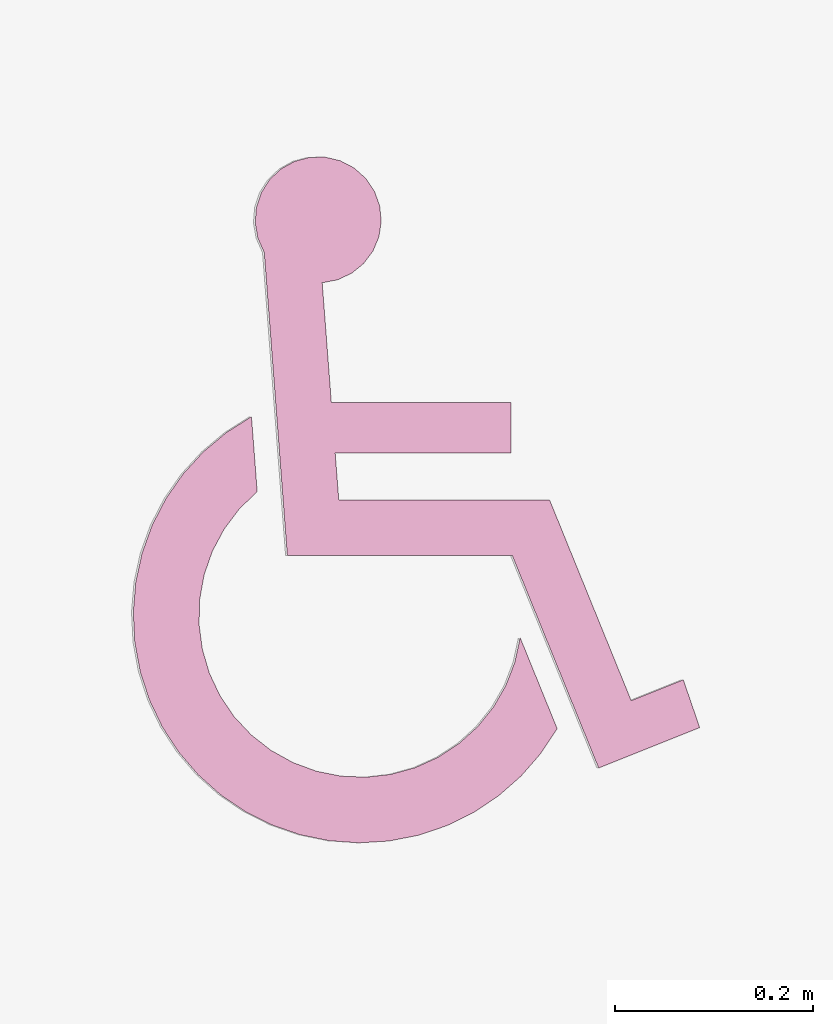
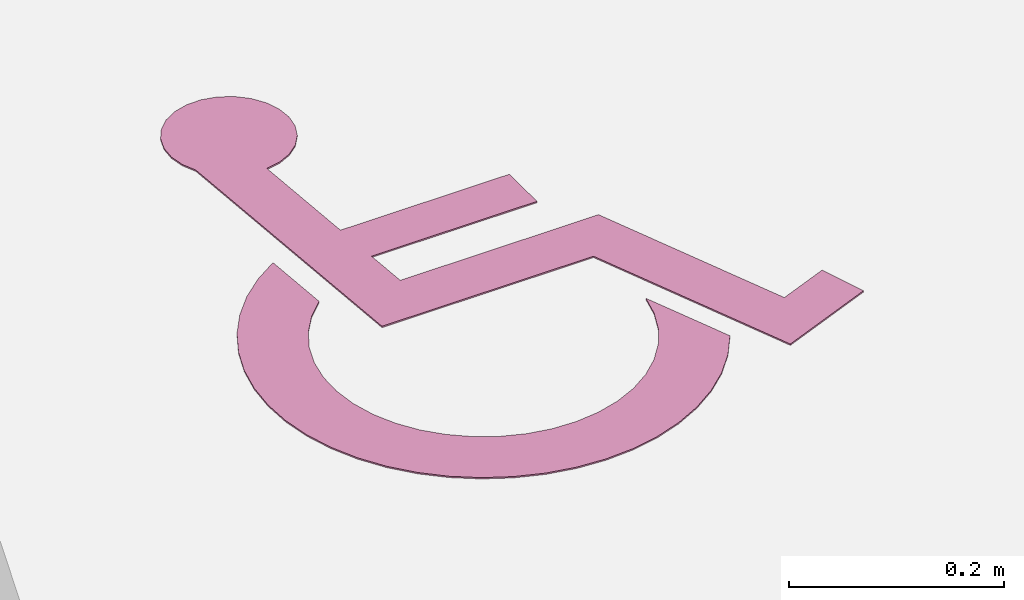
# One storey, part 74 of 76: 1 furnishing.
"""IFC2X3 building model written with IfcOpenShell, lengths in millimetres."""

import ifcopenshell
import ifcopenshell.guid

model = None  # the IFC model being written
_history = None  # IfcOwnerHistory: only IFC2X3 demands one
_inside = {}  # id of a spatial element -> (the spatial element, [elements in it])
_under = {}  # id of a project, library or spatial element -> (it, [spatial elements below it])
_declared = {}  # id of a project -> (the project, [libraries it declares])
_typed = {}  # id of a type object -> (the type object, [elements of that type])
_made_of = {}  # id of a material, layer set ... -> (it, [elements and type objects made of it])


def new_model(schema):
    """Start an empty IFC model of exactly this schema.

    Asked for "IFC4X3", IfcOpenShell would pick the latest addendum, in which some entities
    have other attributes; the version numbers below select the first issue.
    IFC2X3 requires an IfcOwnerHistory on every rooted entity: one is made here for all.
    """
    global model, _history
    if schema == "IFC4X3":
        model = ifcopenshell.file(schema_version=(4, 3, 0, 0))
    else:
        model = ifcopenshell.file(schema=schema)
    _inside.clear()
    _under.clear()
    _declared.clear()
    _typed.clear()
    _made_of.clear()
    _history = None
    if model.schema == "IFC2X3":
        org = make("IfcOrganization", Name="unknown")
        user = make(
            "IfcPersonAndOrganization",
            ThePerson=make("IfcPerson", FamilyName="unknown"),
            TheOrganization=org,
        )
        app = make(
            "IfcApplication",
            ApplicationDeveloper=org,
            Version="unknown",
            ApplicationFullName="unknown",
            ApplicationIdentifier="unknown",
        )
        _history = make(
            "IfcOwnerHistory",
            OwningUser=user,
            OwningApplication=app,
            ChangeAction="ADDED",
            CreationDate=0,
        )
    return model


def make(cls, **values):
    """One entity of the class cls with the attributes given. An attribute that is None is left unset."""
    return model.create_entity(
        cls, **{name: value for name, value in values.items() if value is not None}
    )


def entity(cls, *values):
    """Any entity or typed value of the class cls, its attributes in the order of the schema. None: left unset."""
    e = model.create_entity(cls)
    for i, value in enumerate(values):
        if value is not None:
            e[i] = value
    return e


def rooted(cls, **values):
    """An entity with a GlobalId (a new one), such as an element, a storey or a relation."""
    return make(cls, GlobalId=ifcopenshell.guid.new(), OwnerHistory=_history, **values)


def si_unit(unit_type, name, prefix=None):
    """IfcSIUnit, for example si_unit("LENGTHUNIT", "METRE", prefix="MILLI")."""
    return make("IfcSIUnit", UnitType=unit_type, Prefix=prefix, Name=name)


def converted_unit(unit_type, name, factor, base, dimensions=None, offset=None):
    """IfcConversionBasedUnit, such as the inch: factor (a typed value) times the base unit."""
    return make(
        "IfcConversionBasedUnit"
        if offset is None
        else "IfcConversionBasedUnitWithOffset",
        ConversionOffset=offset,
        Dimensions=None
        if dimensions is None
        else entity("IfcDimensionalExponents", *dimensions),
        UnitType=unit_type,
        Name=name,
        ConversionFactor=make(
            "IfcMeasureWithUnit", ValueComponent=factor, UnitComponent=base
        ),
    )


def derived_unit(unit_type, elements):
    """IfcDerivedUnit: a product of units, each with its exponent."""
    return make(
        "IfcDerivedUnit",
        Elements=[
            make("IfcDerivedUnitElement", Unit=unit, Exponent=power)
            for unit, power in elements
        ],
        UnitType=unit_type,
    )


def assignment(units):
    """IfcUnitAssignment: the units of a project."""
    return None if units is None else make("IfcUnitAssignment", Units=units)


def point(xyz):
    """IfcCartesianPoint."""
    return None if xyz is None else make("IfcCartesianPoint", Coordinates=xyz)


def direction(xyz):
    """IfcDirection."""
    return None if xyz is None else make("IfcDirection", DirectionRatios=xyz)


def frame(location, z_axis=None, x_axis=None):
    """IfcAxis2Placement3D, a coordinate frame: its origin and axes. An axis left out is left unset."""
    return make(
        "IfcAxis2Placement3D",
        Location=point(location),
        Axis=direction(z_axis),
        RefDirection=direction(x_axis),
    )


def frame_2d(location, x_axis=None):
    """IfcAxis2Placement2D, a coordinate frame in the plane: its origin and x axis."""
    return make(
        "IfcAxis2Placement2D", Location=point(location), RefDirection=direction(x_axis)
    )


def origin():
    """The frame at (0, 0, 0) with its axes left unset."""
    return frame((0.0, 0.0, 0.0))


def place(relative_to, where):
    """IfcLocalPlacement: puts the frame where relative to a parent placement (None: the world)."""
    return make(
        "IfcLocalPlacement", PlacementRelTo=relative_to, RelativePlacement=where
    )


def context(
    kind, dimensions, precision=None, world=None, true_north=None, identifier=None
):
    """IfcGeometricRepresentationContext, for example the 3D "Model" context."""
    return make(
        "IfcGeometricRepresentationContext",
        ContextIdentifier=identifier,
        ContextType=kind,
        CoordinateSpaceDimension=dimensions,
        Precision=precision,
        WorldCoordinateSystem=world,
        TrueNorth=true_north,
    )


def subcontext(parent, identifier, kind, view, scale=None):
    """IfcGeometricRepresentationSubContext, for example "Body" below "Model"."""
    return make(
        "IfcGeometricRepresentationSubContext",
        ContextIdentifier=identifier,
        ContextType=kind,
        ParentContext=parent,
        TargetScale=scale,
        TargetView=view,
    )


def project(units=None, contexts=None):
    """IfcProject with its units and contexts."""
    return rooted(
        "IfcProject",
        Name="project",
        RepresentationContexts=contexts,
        UnitsInContext=assignment(units),
    )


def spatial(cls, under=None, at=None, **own):
    """A site, building, storey or space (cls), placed at a placement, below another one or the project."""
    s = rooted(cls, ObjectPlacement=at, **own)
    if under is not None:
        _under.setdefault(under.id(), (under, []))[1].append(s)
    return s


def polyline(points):
    """IfcPolyline through the points."""
    return make("IfcPolyline", Points=[point(p) for p in points])


def circle_curve(where, radius):
    """IfcCircle in the frame where."""
    return make("IfcCircle", Position=where, Radius=radius)


def parameter(value):
    """IfcParameterValue: where a trimmed curve begins or ends, as a parameter of its basis curve."""
    return model.create_entity("IfcParameterValue", value)


def trimmed(basis, trim1, trim2, sense, master):
    """IfcTrimmedCurve: the piece of a basis curve between two trims."""
    return make(
        "IfcTrimmedCurve",
        BasisCurve=basis,
        Trim1=trim1,
        Trim2=trim2,
        SenseAgreement=sense,
        MasterRepresentation=master,
    )


def segment(curve, same_sense, transition):
    """IfcCompositeCurveSegment."""
    return make(
        "IfcCompositeCurveSegment",
        Transition=transition,
        SameSense=same_sense,
        ParentCurve=curve,
    )


def composite_curve(segments, self_intersect=None):
    """IfcCompositeCurve: segments joined end to end."""
    return make("IfcCompositeCurve", Segments=segments, SelfIntersect=self_intersect)


def outline(outer, holes=None, kind="AREA"):
    """IfcArbitraryClosedProfileDef: a profile drawn as a closed curve; with holes, ...WithVoids."""
    if holes is None:
        return make("IfcArbitraryClosedProfileDef", ProfileType=kind, OuterCurve=outer)
    return make(
        "IfcArbitraryProfileDefWithVoids",
        ProfileType=kind,
        OuterCurve=outer,
        InnerCurves=holes,
    )


def extrude(swept, where, along, depth):
    """IfcExtrudedAreaSolid: the profile swept, set in the frame where, extruded along a direction by depth."""
    return make(
        "IfcExtrudedAreaSolid",
        SweptArea=swept,
        Position=where,
        ExtrudedDirection=direction(along),
        Depth=depth,
    )


def shape(context_of_items, identifier, shape_type, items):
    """IfcShapeRepresentation: the items that make up one representation, for example the "Body"."""
    return make(
        "IfcShapeRepresentation",
        ContextOfItems=context_of_items,
        RepresentationIdentifier=identifier,
        RepresentationType=shape_type,
        Items=items,
    )


def source(mapping_origin, context_of_items, identifier, shape_type, items):
    """IfcRepresentationMap: a shape defined once, which mapped items show again and again."""
    return make(
        "IfcRepresentationMap",
        MappingOrigin=mapping_origin,
        MappedRepresentation=shape(context_of_items, identifier, shape_type, items),
    )


def transform(
    local_origin,
    x_axis=None,
    y_axis=None,
    z_axis=None,
    scale=None,
    scale2=None,
    scale3=None,
    uniform=True,
):
    """IfcCartesianTransformationOperator3D, or its non-uniform kind. x_axis, y_axis, z_axis: its Axis1, 2, 3."""
    if uniform:
        return make(
            "IfcCartesianTransformationOperator3D",
            Axis1=direction(x_axis),
            Axis2=direction(y_axis),
            LocalOrigin=point(local_origin),
            Scale=scale,
            Axis3=direction(z_axis),
        )
    return make(
        "IfcCartesianTransformationOperator3DnonUniform",
        Axis1=direction(x_axis),
        Axis2=direction(y_axis),
        LocalOrigin=point(local_origin),
        Scale=scale,
        Axis3=direction(z_axis),
        Scale2=scale2,
        Scale3=scale3,
    )


def mapped(mapping_source, mapping_target):
    """IfcMappedItem: shows the shape of a source again, moved by a transform."""
    return make(
        "IfcMappedItem", MappingSource=mapping_source, MappingTarget=mapping_target
    )


def material(Name=None, Category=None):
    """IfcMaterial."""
    return make("IfcMaterial", Name=Name, Category=Category)


def material_list(materials):
    """IfcMaterialList."""
    return make("IfcMaterialList", Materials=materials)


def made_of(thing, what):
    """Note that an element or type object is made of a material, layer set ...; save() writes the relation."""
    if what is not None:
        _made_of.setdefault(what.id(), (what, []))[1].append(thing)
    return thing


def type_object(cls, material=None, **own):
    """A type object (cls), such as IfcWallType, which elements share."""
    return made_of(rooted(cls, **own), material)


def type_shapes(of_type, sources):
    """Give a type object the sources (RepresentationMaps) that its elements show as mapped items."""
    of_type.RepresentationMaps = sources


def element(
    cls,
    number,
    at=None,
    inside=None,
    cuts=None,
    type_object=None,
    material=None,
    context=None,
    identifier="Body",
    shape_type=None,
    held_by="IfcProductDefinitionShape",
    body=None,
    shapes=None,
    **own,
):
    """One element of the class cls, such as IfcWall. Its Tag is "e" and its number.

    at: its placement. inside: the storey or other place that contains it. cuts: it is an
    opening in that element (IfcRelVoidsElement). A single representation is given by context,
    identifier, shape_type and body (its items); several are given by shapes. held_by: the class
    of the entity that holds the representations. save() writes the other relations.
    """
    e = rooted(cls, Tag="e%d" % number, ObjectPlacement=at, **own)
    if body is not None:
        shapes = [shape(context, identifier, shape_type, body)]
    if shapes is not None:
        e.Representation = make(held_by, Representations=shapes)
    if inside is not None:
        _inside.setdefault(inside.id(), (inside, []))[1].append(e)
    if cuts is not None:
        rooted(
            "IfcRelVoidsElement", RelatingBuildingElement=cuts, RelatedOpeningElement=e
        )
    if type_object is not None:
        _typed.setdefault(type_object.id(), (type_object, []))[1].append(e)
    return made_of(e, material)


def aggregate(whole, parts):
    """IfcRelAggregates: a whole, such as a stair, and the parts it consists of."""
    return rooted("IfcRelAggregates", RelatingObject=whole, RelatedObjects=parts)


def save(model, path):
    """Write the relations noted so far, then the file.

    IfcRelAggregates (storeys below a building ...), IfcRelContainedInSpatialStructure (elements
    in a storey), IfcRelDefinesByType, IfcRelAssociatesMaterial and IfcRelDeclares: one each for
    every whole, place, type object, material and project.
    """
    for whole, parts in _under.values():
        aggregate(whole, parts)
    for where, things in _inside.values():
        rooted(
            "IfcRelContainedInSpatialStructure",
            RelatedElements=things,
            RelatingStructure=where,
        )
    for kind, things in _typed.values():
        rooted("IfcRelDefinesByType", RelatedObjects=things, RelatingType=kind)
    for what, things in _made_of.values():
        rooted("IfcRelAssociatesMaterial", RelatedObjects=things, RelatingMaterial=what)
    for by, libraries in _declared.values():
        rooted("IfcRelDeclares", RelatingContext=by, RelatedDefinitions=libraries)
    model.write(path)


model = new_model("IFC2X3")

# Units and contexts
model_context = context("Model", 3, precision=0.01, world=origin(), true_north=direction((6.123031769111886e-17, 1.0)))
body_context = subcontext(model_context, "Body", "Model", "MODEL_VIEW")
ifc_project = project(units=[si_unit("LENGTHUNIT", "METRE", prefix="MILLI"), si_unit("AREAUNIT", "SQUARE_METRE"), si_unit("VOLUMEUNIT", "CUBIC_METRE"), converted_unit("PLANEANGLEUNIT", "DEGREE", entity("IfcRatioMeasure", 0.017453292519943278), si_unit("PLANEANGLEUNIT", "RADIAN"), dimensions=[0, 0, 0, 0, 0, 0, 0]), si_unit("MASSUNIT", "GRAM", prefix="KILO"), derived_unit("MASSDENSITYUNIT", [(si_unit("MASSUNIT", "GRAM", prefix="KILO"), 1), (si_unit("LENGTHUNIT", "METRE"), -3)]), derived_unit("MOMENTOFINERTIAUNIT", [(si_unit("LENGTHUNIT", "METRE"), 4)]), si_unit("TIMEUNIT", "SECOND"), si_unit("FREQUENCYUNIT", "HERTZ"), si_unit("THERMODYNAMICTEMPERATUREUNIT", "DEGREE_CELSIUS"), derived_unit("THERMALTRANSMITTANCEUNIT", [(si_unit("MASSUNIT", "GRAM", prefix="KILO"), 1), (si_unit("THERMODYNAMICTEMPERATUREUNIT", "KELVIN"), -1), (si_unit("TIMEUNIT", "SECOND"), -3)]), derived_unit("VOLUMETRICFLOWRATEUNIT", [(si_unit("LENGTHUNIT", "METRE"), 3), (si_unit("TIMEUNIT", "SECOND"), -1)]), derived_unit("MASSFLOWRATEUNIT", [(si_unit("MASSUNIT", "GRAM", prefix="KILO"), 1), (si_unit("TIMEUNIT", "SECOND"), -1)]), derived_unit("ROTATIONALFREQUENCYUNIT", [(si_unit("TIMEUNIT", "SECOND"), -1)]), si_unit("ELECTRICCURRENTUNIT", "AMPERE"), si_unit("ELECTRICVOLTAGEUNIT", "VOLT"), si_unit("POWERUNIT", "WATT"), si_unit("FORCEUNIT", "NEWTON", prefix="KILO"), si_unit("ILLUMINANCEUNIT", "LUX"), si_unit("LUMINOUSFLUXUNIT", "LUMEN"), si_unit("LUMINOUSINTENSITYUNIT", "CANDELA"), derived_unit("USERDEFINED", [(si_unit("MASSUNIT", "GRAM", prefix="KILO"), -1), (si_unit("LENGTHUNIT", "METRE"), -2), (si_unit("TIMEUNIT", "SECOND"), 3), (si_unit("LUMINOUSFLUXUNIT", "LUMEN"), 1)]), derived_unit("SOUNDPOWERUNIT", [(si_unit("MASSUNIT", "GRAM", prefix="KILO"), 1), (si_unit("LENGTHUNIT", "METRE"), 2), (si_unit("TIMEUNIT", "SECOND"), -3)]), derived_unit("SOUNDPRESSUREUNIT", [(si_unit("MASSUNIT", "GRAM", prefix="KILO"), 1), (si_unit("LENGTHUNIT", "METRE"), -1), (si_unit("TIMEUNIT", "SECOND"), -2)]), derived_unit("LINEARVELOCITYUNIT", [(si_unit("LENGTHUNIT", "METRE"), 1), (si_unit("TIMEUNIT", "SECOND"), -1)]), si_unit("PRESSUREUNIT", "PASCAL"), derived_unit("USERDEFINED", [(si_unit("LENGTHUNIT", "METRE"), -2), (si_unit("MASSUNIT", "GRAM", prefix="KILO"), 1), (si_unit("TIMEUNIT", "SECOND"), -2)]), derived_unit("LINEARFORCEUNIT", [(si_unit("MASSUNIT", "GRAM", prefix="KILO"), 1), (si_unit("LENGTHUNIT", "METRE"), 1), (si_unit("TIMEUNIT", "SECOND"), -2), (si_unit("LENGTHUNIT", "METRE"), -1)]), derived_unit("PLANARFORCEUNIT", [(si_unit("MASSUNIT", "GRAM", prefix="KILO"), 1), (si_unit("LENGTHUNIT", "METRE"), 1), (si_unit("TIMEUNIT", "SECOND"), -2), (si_unit("LENGTHUNIT", "METRE"), -2)])], contexts=[model_context])

# Site, building, storey, space
site_placement = place(None, frame((-14167.972527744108, -657.2125860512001, 0.0)))
site = spatial("IfcSite", under=ifc_project, at=site_placement, Name="Default", CompositionType="ELEMENT")
building_placement = place(site_placement, origin())
building = spatial("IfcBuilding", under=site, at=building_placement, Name="Sample Building", CompositionType="ELEMENT")
storey_placement = place(building_placement, frame((0.0, 0.0, 9300.0)))
storey = spatial("IfcBuildingStorey", under=building, at=storey_placement, Name="지상 3층", CompositionType="ELEMENT", Elevation=9300.000000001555)
space_placement = place(storey_placement, origin())
space = spatial("IfcSpace", under=storey, at=space_placement, Name="202", CompositionType="ELEMENT", InteriorOrExteriorSpace="INTERNAL")

# Furnishing
ifc_material = material(Name="KBIMS-노면용 페인트_진하늘색")
ifc_material_list = material_list([ifc_material, ifc_material])
furniture_type = type_object("IfcFurnitureType", Name="SE251-장애인전용 표시:SE251-장애인전용 표시", material=ifc_material_list)
shared_shape = source(origin(), body_context, "Body", "SweptSolid", [
    extrude(outline(composite_curve([segment(trimmed(circle_curve(frame_2d((-36.68855283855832, -47.74251805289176), x_axis=(1.0, 0.0)), 229.68578343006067), [parameter(118.63343780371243)], [parameter(330.18087778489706)], True, "PARAMETER"), True, "CONTINUOUS"), segment(polyline([(162.58672770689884, -161.9568852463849), (125.13875807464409, -69.8626552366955)]), True, "CONTINUOUS"), segment(trimmed(circle_curve(frame_2d((-36.68855283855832, -47.74251805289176), x_axis=(1.0, 0.0)), 163.33211266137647), [parameter(129.67752554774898)], [parameter(352.21649007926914)], True, "PARAMETER"), False, "CONTINUOUS"), segment(polyline([(-140.97054841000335, 77.96605136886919), (-146.7549373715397, 153.85348911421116)]), True, "CONTINUOUS")], self_intersect=False)), frame((71.31807136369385, -37.57408412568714, 0.0)), (0.0, 0.0, 1.0), 1.5875),
    extrude(outline(composite_curve([segment(polyline([(-282.31222354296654, -186.97456283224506), (25.012127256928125, -186.974562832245)]), True, "CONTINUOUS"), segment(polyline([(25.012127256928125, -186.974562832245), (42.305091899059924, 39.89793596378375)]), True, "CONTINUOUS"), segment(polyline([(42.30509189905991, 39.89793596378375), (263.5159692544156, 110.7895168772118)]), True, "CONTINUOUS"), segment(polyline([(263.5159692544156, 110.7895168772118), (230.53394569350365, 215.81642815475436)]), True, "CONTINUOUS"), segment(polyline([(230.53394569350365, 215.81642815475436), (181.07321552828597, 202.95741624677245)]), True, "CONTINUOUS"), segment(polyline([(181.07321552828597, 202.95741624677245), (198.08692429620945, 148.77950087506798)]), True, "CONTINUOUS"), segment(polyline([(198.08692429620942, 148.77950087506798), (-10.806586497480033, 81.83527372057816)]), True, "CONTINUOUS"), segment(polyline([(-10.806586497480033, 81.83527372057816), (-27.016565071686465, -130.829149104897)]), True, "CONTINUOUS"), segment(polyline([(-27.01656507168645, -130.829149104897), (-74.51295100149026, -130.82914910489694)]), True, "CONTINUOUS"), segment(polyline([(-74.51295100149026, -130.82914910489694), (-60.984513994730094, 46.65518467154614)]), True, "CONTINUOUS"), segment(polyline([(-60.984513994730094, 46.65518467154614), (-111.87816757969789, 50.53446557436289)]), True, "CONTINUOUS"), segment(polyline([(-111.87816757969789, 50.53446557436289), (-125.70229607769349, -130.82914910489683)]), True, "CONTINUOUS"), segment(polyline([(-125.70229607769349, -130.82914910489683), (-247.3139701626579, -130.8291491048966)]), True, "CONTINUOUS"), segment(trimmed(circle_curve(frame_2d((-311.1107235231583, -130.04222235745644), x_axis=(0.07600280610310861, 0.9971076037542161)), 63.80160650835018), [parameter(273.6521413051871)], [parameter(211.19083029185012)], True, "PARAMETER"), True, "CONTINUOUS")], self_intersect=False)), frame((145.3871253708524, 15.097937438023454, 0.0), z_axis=(0.0, 0.0, 1.0), x_axis=(0.07600280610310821, -0.9971076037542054, 0.0)), (0.0, 0.0, 1.0), 1.5875),
])
type_shapes(furniture_type, [shared_shape])
furnishing_placement = place(space_placement, frame((33679.72696224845, 23597.21230348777, 40.0)))
element("IfcFurnishingElement", 1, at=furnishing_placement, inside=space, type_object=furniture_type, material=ifc_material, Name="SE251-장애인전용 표시:SE251-장애인전용 표시", ObjectType="SE251-장애인전용 표시:SE251-장애인전용 표시", context=body_context, shape_type="MappedRepresentation", body=[
    mapped(shared_shape, transform((0.0, 0.0, 0.0), scale=1.0)),
])

save(model, "model.ifc")
